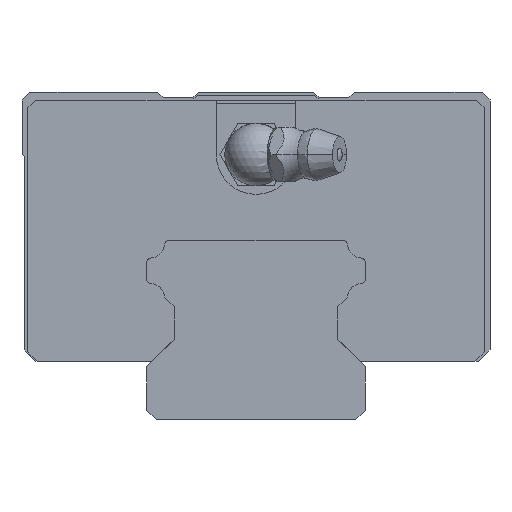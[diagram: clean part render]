
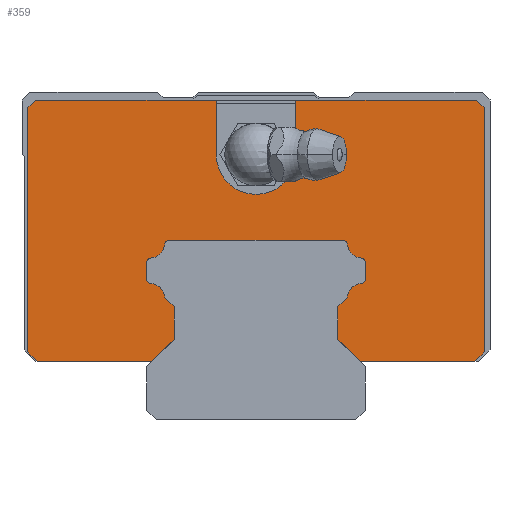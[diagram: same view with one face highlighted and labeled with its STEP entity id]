
A CAD part, front view. The second image highlights one B-rep face of the part: STEP entity #359.
In plain terms, the highlighted planar face has unit normal (0, -1, 0).
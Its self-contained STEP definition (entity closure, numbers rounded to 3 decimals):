
#359=ADVANCED_FACE('',(#803),#804,.F.);
#803=FACE_OUTER_BOUND('',#1365,.T.);
#804=PLANE('',#1366);
#1365=EDGE_LOOP('',(#2946,#2947,#2948,#2949,#2950,#2951,#2952,#2953,#2954,#2955,#2956,#2957,#2958,#2959,#2960,#2961,#2962,#2963,#2964,#2965,#2966,#2967,#2968,#2969,#2970,#2971,#2972,#2973,#2974,#2975,#2976,#2977,#2978));
#1366=AXIS2_PLACEMENT_3D('',#2979,#2980,#2981);
#2946=ORIENTED_EDGE('',*,*,#3915,.F.);
#2947=ORIENTED_EDGE('',*,*,#3850,.T.);
#2948=ORIENTED_EDGE('',*,*,#3777,.T.);
#2949=ORIENTED_EDGE('',*,*,#3774,.T.);
#2950=ORIENTED_EDGE('',*,*,#3916,.T.);
#2951=ORIENTED_EDGE('',*,*,#3811,.T.);
#2952=ORIENTED_EDGE('',*,*,#3703,.F.);
#2953=ORIENTED_EDGE('',*,*,#3693,.F.);
#2954=ORIENTED_EDGE('',*,*,#3692,.F.);
#2955=ORIENTED_EDGE('',*,*,#3797,.F.);
#2956=ORIENTED_EDGE('',*,*,#3810,.T.);
#2957=ORIENTED_EDGE('',*,*,#3819,.T.);
#2958=ORIENTED_EDGE('',*,*,#3917,.T.);
#2959=ORIENTED_EDGE('',*,*,#3709,.T.);
#2960=ORIENTED_EDGE('',*,*,#3833,.T.);
#2961=ORIENTED_EDGE('',*,*,#3782,.F.);
#2962=ORIENTED_EDGE('',*,*,#3799,.F.);
#2963=ORIENTED_EDGE('',*,*,#3846,.F.);
#2964=ORIENTED_EDGE('',*,*,#3880,.F.);
#2965=ORIENTED_EDGE('',*,*,#3918,.F.);
#2966=ORIENTED_EDGE('',*,*,#3919,.F.);
#2967=ORIENTED_EDGE('',*,*,#3864,.F.);
#2968=ORIENTED_EDGE('',*,*,#3920,.F.);
#2969=ORIENTED_EDGE('',*,*,#3921,.F.);
#2970=ORIENTED_EDGE('',*,*,#3721,.F.);
#2971=ORIENTED_EDGE('',*,*,#3831,.F.);
#2972=ORIENTED_EDGE('',*,*,#3858,.F.);
#2973=ORIENTED_EDGE('',*,*,#3922,.F.);
#2974=ORIENTED_EDGE('',*,*,#3894,.F.);
#2975=ORIENTED_EDGE('',*,*,#3923,.F.);
#2976=ORIENTED_EDGE('',*,*,#3824,.F.);
#2977=ORIENTED_EDGE('',*,*,#3848,.F.);
#2978=ORIENTED_EDGE('',*,*,#3728,.F.);
#2979=CARTESIAN_POINT('',(44.9,-13.8,24.35));
#2980=DIRECTION('',(0.0,1.0,0.0));
#2981=DIRECTION('',(1.0,0.0,0.0));
#3692=EDGE_CURVE('',#4536,#4532,#4538,.T.);
#3693=EDGE_CURVE('',#4532,#4539,#4540,.T.);
#3703=EDGE_CURVE('',#4539,#4552,#4557,.T.);
#3709=EDGE_CURVE('',#4569,#4566,#4570,.T.);
#3721=EDGE_CURVE('',#4591,#4593,#4594,.T.);
#3728=EDGE_CURVE('',#4603,#4605,#4606,.T.);
#3774=EDGE_CURVE('',#4681,#4678,#4682,.T.);
#3777=EDGE_CURVE('',#4686,#4681,#4687,.T.);
#3782=EDGE_CURVE('',#4693,#4695,#4696,.T.);
#3797=EDGE_CURVE('',#4717,#4536,#4719,.T.);
#3799=EDGE_CURVE('',#4721,#4693,#4723,.T.);
#3810=EDGE_CURVE('',#4717,#4736,#4739,.T.);
#3811=EDGE_CURVE('',#4740,#4552,#4741,.T.);
#3819=EDGE_CURVE('',#4736,#4750,#4753,.T.);
#3824=EDGE_CURVE('',#4758,#4760,#4761,.T.);
#3831=EDGE_CURVE('',#4772,#4591,#4774,.T.);
#3833=EDGE_CURVE('',#4566,#4695,#4776,.T.);
#3846=EDGE_CURVE('',#4797,#4721,#4799,.T.);
#3848=EDGE_CURVE('',#4605,#4758,#4801,.T.);
#3850=EDGE_CURVE('',#4803,#4686,#4804,.T.);
#3858=EDGE_CURVE('',#4817,#4772,#4819,.T.);
#3864=EDGE_CURVE('',#4828,#4830,#4831,.T.);
#3880=EDGE_CURVE('',#4853,#4797,#4855,.T.);
#3894=EDGE_CURVE('',#4877,#4879,#4880,.T.);
#3915=EDGE_CURVE('',#4803,#4603,#4907,.T.);
#3916=EDGE_CURVE('',#4678,#4740,#4908,.T.);
#3917=EDGE_CURVE('',#4750,#4569,#4909,.T.);
#3918=EDGE_CURVE('',#4910,#4853,#4911,.T.);
#3919=EDGE_CURVE('',#4830,#4910,#4912,.T.);
#3920=EDGE_CURVE('',#4913,#4828,#4914,.T.);
#3921=EDGE_CURVE('',#4593,#4913,#4915,.T.);
#3922=EDGE_CURVE('',#4879,#4817,#4916,.T.);
#3923=EDGE_CURVE('',#4760,#4877,#4917,.T.);
#4532=VERTEX_POINT('',#5870);
#4536=VERTEX_POINT('',#5875);
#4538=CIRCLE('',#5878,5.1);
#4539=VERTEX_POINT('',#5879);
#4540=CIRCLE('',#5880,5.1);
#4552=VERTEX_POINT('',#5897);
#4557=LINE('',#5905,#5906);
#4566=VERTEX_POINT('',#5919);
#4569=VERTEX_POINT('',#5923);
#4570=LINE('',#5924,#5925);
#4591=VERTEX_POINT('',#5956);
#4593=VERTEX_POINT('',#5959);
#4594=LINE('',#5960,#5961);
#4603=VERTEX_POINT('',#5972);
#4605=VERTEX_POINT('',#5975);
#4606=LINE('',#5976,#5977);
#4678=VERTEX_POINT('',#6085);
#4681=VERTEX_POINT('',#6089);
#4682=LINE('',#6090,#6091);
#4686=VERTEX_POINT('',#6097);
#4687=LINE('',#6098,#6099);
#4693=VERTEX_POINT('',#6107);
#4695=VERTEX_POINT('',#6110);
#4696=LINE('',#6111,#6112);
#4717=VERTEX_POINT('',#6142);
#4719=LINE('',#6145,#6146);
#4721=VERTEX_POINT('',#6148);
#4723=LINE('',#6151,#6152);
#4736=VERTEX_POINT('',#6169);
#4739=LINE('',#6173,#6174);
#4740=VERTEX_POINT('',#6175);
#4741=LINE('',#6176,#6177);
#4750=VERTEX_POINT('',#6190);
#4753=LINE('',#6194,#6195);
#4758=VERTEX_POINT('',#6201);
#4760=VERTEX_POINT('',#6204);
#4761=CIRCLE('',#6205,2.0);
#4772=VERTEX_POINT('',#6228);
#4774=CIRCLE('',#6231,0.5);
#4776=LINE('',#6233,#6234);
#4797=VERTEX_POINT('',#6264);
#4799=LINE('',#6267,#6268);
#4801=LINE('',#6271,#6272);
#4803=VERTEX_POINT('',#6275);
#4804=LINE('',#6276,#6277);
#4817=VERTEX_POINT('',#6296);
#4819=CIRCLE('',#6301,2.0);
#4828=VERTEX_POINT('',#6319);
#4830=VERTEX_POINT('',#6324);
#4831=CIRCLE('',#6325,0.5);
#4853=VERTEX_POINT('',#6364);
#4855=CIRCLE('',#6369,2.0);
#4877=VERTEX_POINT('',#6406);
#4879=VERTEX_POINT('',#6409);
#4880=LINE('',#6410,#6411);
#4907=LINE('',#6454,#6455);
#4908=LINE('',#6456,#6457);
#4909=LINE('',#6458,#6459);
#4910=VERTEX_POINT('',#6460);
#4911=CIRCLE('',#6461,0.5);
#4912=LINE('',#6462,#6463);
#4913=VERTEX_POINT('',#6464);
#4914=CIRCLE('',#6465,2.0);
#4915=CIRCLE('',#6466,0.5);
#4916=CIRCLE('',#6467,0.5);
#4917=CIRCLE('',#6468,0.5);
#5870=CARTESIAN_POINT('',(0.,-13.8,28.9));
#5875=CARTESIAN_POINT('',(-5.1,-13.8,34.0));
#5878=AXIS2_PLACEMENT_3D('',#7147,#7148,#7149);
#5879=CARTESIAN_POINT('',(5.1,-13.8,34.0));
#5880=AXIS2_PLACEMENT_3D('',#7150,#7151,#7152);
#5897=CARTESIAN_POINT('',(5.1,-13.8,41.0));
#5905=CARTESIAN_POINT('',(5.1,-13.8,34.0));
#5906=VECTOR('',#7164,1000.0);
#5919=CARTESIAN_POINT('',(-28.05,-13.8,7.5));
#5923=CARTESIAN_POINT('',(-29.25,-13.8,8.7));
#5924=CARTESIAN_POINT('',(-29.25,-13.8,8.7));
#5925=VECTOR('',#7170,1000.0);
#5956=CARTESIAN_POINT('',(11.201,-13.8,23.0));
#5959=CARTESIAN_POINT('',(-11.201,-13.8,23.0));
#5960=CARTESIAN_POINT('',(44.9,-13.8,23.0));
#5961=VECTOR('',#7182,1000.0);
#5972=CARTESIAN_POINT('',(10.5,-13.8,10.3));
#5975=CARTESIAN_POINT('',(10.5,-13.8,14.502));
#5976=CARTESIAN_POINT('',(10.5,-13.8,24.35));
#5977=VECTOR('',#7195,1000.0);
#6085=CARTESIAN_POINT('',(29.25,-13.8,40.0));
#6089=CARTESIAN_POINT('',(29.25,-13.8,8.7));
#6090=CARTESIAN_POINT('',(29.25,-13.8,8.7));
#6091=VECTOR('',#7257,1000.0);
#6097=CARTESIAN_POINT('',(28.05,-13.8,7.5));
#6098=CARTESIAN_POINT('',(28.05,-13.8,7.5));
#6099=VECTOR('',#7260,1000.0);
#6107=CARTESIAN_POINT('',(-10.5,-13.8,10.3));
#6110=CARTESIAN_POINT('',(-13.3,-13.8,7.5));
#6111=CARTESIAN_POINT('',(24.225,-13.8,45.025));
#6112=VECTOR('',#7267,1000.0);
#6142=CARTESIAN_POINT('',(-5.1,-13.8,41.0));
#6145=CARTESIAN_POINT('',(-5.1,-13.8,41.0));
#6146=VECTOR('',#7290,1000.0);
#6148=CARTESIAN_POINT('',(-10.5,-13.8,14.502));
#6151=CARTESIAN_POINT('',(-10.5,-13.8,24.35));
#6152=VECTOR('',#7292,1000.0);
#6169=CARTESIAN_POINT('',(-28.25,-13.8,41.0));
#6173=CARTESIAN_POINT('',(28.25,-13.8,41.0));
#6174=VECTOR('',#7313,1000.0);
#6175=CARTESIAN_POINT('',(28.25,-13.8,41.0));
#6176=CARTESIAN_POINT('',(28.25,-13.8,41.0));
#6177=VECTOR('',#7314,1000.0);
#6190=CARTESIAN_POINT('',(-29.25,-13.8,40.0));
#6194=CARTESIAN_POINT('',(-28.25,-13.8,41.0));
#6195=VECTOR('',#7326,1000.0);
#6201=CARTESIAN_POINT('',(11.701,-13.8,15.703));
#6204=CARTESIAN_POINT('',(13.536,-13.8,17.496));
#6205=AXIS2_PLACEMENT_3D('',#7335,#7336,#7337);
#6228=CARTESIAN_POINT('',(11.699,-13.8,22.544));
#6231=AXIS2_PLACEMENT_3D('',#7342,#7343,#7344);
#6233=CARTESIAN_POINT('',(-28.05,-13.8,7.5));
#6234=VECTOR('',#7348,1000.0);
#6264=CARTESIAN_POINT('',(-11.701,-13.8,15.703));
#6267=CARTESIAN_POINT('',(12.276,-13.8,-8.274));
#6268=VECTOR('',#7365,1000.0);
#6271=CARTESIAN_POINT('',(32.624,-13.8,36.626));
#6272=VECTOR('',#7367,1000.0);
#6275=CARTESIAN_POINT('',(13.3,-13.8,7.5));
#6276=CARTESIAN_POINT('',(-28.05,-13.8,7.5));
#6277=VECTOR('',#7369,1000.0);
#6296=CARTESIAN_POINT('',(13.536,-13.8,20.725));
#6301=AXIS2_PLACEMENT_3D('',#7376,#7377,#7378);
#6319=CARTESIAN_POINT('',(-13.536,-13.8,20.725));
#6324=CARTESIAN_POINT('',(-14.,-13.8,20.226));
#6325=AXIS2_PLACEMENT_3D('',#7382,#7383,#7384);
#6364=CARTESIAN_POINT('',(-13.536,-13.8,17.496));
#6369=AXIS2_PLACEMENT_3D('',#7402,#7403,#7404);
#6406=CARTESIAN_POINT('',(14.,-13.8,17.995));
#6409=CARTESIAN_POINT('',(14.,-13.8,20.226));
#6410=CARTESIAN_POINT('',(14.,-13.8,24.35));
#6411=VECTOR('',#7421,1000.0);
#6454=CARTESIAN_POINT('',(20.675,-13.8,0.125));
#6455=VECTOR('',#7450,1000.0);
#6456=CARTESIAN_POINT('',(29.25,-13.8,40.0));
#6457=VECTOR('',#7451,1000.0);
#6458=CARTESIAN_POINT('',(-29.25,-13.8,40.0));
#6459=VECTOR('',#7452,1000.0);
#6460=CARTESIAN_POINT('',(-14.,-13.8,17.995));
#6461=AXIS2_PLACEMENT_3D('',#7453,#7454,#7455);
#6462=CARTESIAN_POINT('',(-14.,-13.8,24.35));
#6463=VECTOR('',#7456,1000.0);
#6464=CARTESIAN_POINT('',(-11.699,-13.8,22.544));
#6465=AXIS2_PLACEMENT_3D('',#7457,#7458,#7459);
#6466=AXIS2_PLACEMENT_3D('',#7460,#7461,#7462);
#6467=AXIS2_PLACEMENT_3D('',#7463,#7464,#7465);
#6468=AXIS2_PLACEMENT_3D('',#7466,#7467,#7468);
#7147=CARTESIAN_POINT('',(0.0,-13.8,34.0));
#7148=DIRECTION('',(0.0,-1.0,0.0));
#7149=DIRECTION('',(-1.0,0.0,0.0));
#7150=CARTESIAN_POINT('',(0.0,-13.8,34.0));
#7151=DIRECTION('',(0.0,-1.0,0.0));
#7152=DIRECTION('',(-1.0,0.0,0.0));
#7164=DIRECTION('',(0.0,0.0,1.0));
#7170=DIRECTION('',(0.707,0.0,-0.707));
#7182=DIRECTION('',(-1.0,0.0,0.));
#7195=DIRECTION('',(0.0,0.0,1.0));
#7257=DIRECTION('',(0.0,0.0,1.0));
#7260=DIRECTION('',(0.707,0.0,0.707));
#7267=DIRECTION('',(-0.707,0.0,-0.707));
#7290=DIRECTION('',(0.0,0.0,-1.0));
#7292=DIRECTION('',(0.0,0.0,-1.0));
#7313=DIRECTION('',(-1.0,0.0,0.0));
#7314=DIRECTION('',(-1.0,0.0,0.0));
#7326=DIRECTION('',(-0.707,0.0,-0.707));
#7335=CARTESIAN_POINT('',(13.691,-13.8,15.502));
#7336=DIRECTION('',(0.0,1.0,0.0));
#7337=DIRECTION('',(0.0,0.0,1.0));
#7342=CARTESIAN_POINT('',(11.201,-13.8,22.5));
#7343=DIRECTION('',(0.0,-1.0,0.0));
#7344=DIRECTION('',(0.0,0.0,1.0));
#7348=DIRECTION('',(1.0,0.0,0.0));
#7365=DIRECTION('',(0.707,0.0,-0.707));
#7367=DIRECTION('',(0.707,0.0,0.707));
#7369=DIRECTION('',(1.0,0.0,0.0));
#7376=CARTESIAN_POINT('',(13.691,-13.8,22.719));
#7377=DIRECTION('',(0.0,1.0,0.0));
#7378=DIRECTION('',(0.0,0.0,1.0));
#7382=CARTESIAN_POINT('',(-13.5,-13.8,20.226));
#7383=DIRECTION('',(0.0,-1.0,0.0));
#7384=DIRECTION('',(0.0,0.0,1.0));
#7402=CARTESIAN_POINT('',(-13.691,-13.8,15.502));
#7403=DIRECTION('',(0.0,1.0,0.0));
#7404=DIRECTION('',(0.0,0.0,1.0));
#7421=DIRECTION('',(0.0,0.0,1.0));
#7450=DIRECTION('',(-0.707,0.0,0.707));
#7451=DIRECTION('',(-0.707,0.0,0.707));
#7452=DIRECTION('',(0.0,0.0,-1.0));
#7453=CARTESIAN_POINT('',(-13.5,-13.8,17.995));
#7454=DIRECTION('',(0.0,-1.0,0.0));
#7455=DIRECTION('',(0.0,0.0,1.0));
#7456=DIRECTION('',(0.0,0.0,-1.0));
#7457=CARTESIAN_POINT('',(-13.691,-13.8,22.719));
#7458=DIRECTION('',(0.0,1.0,0.0));
#7459=DIRECTION('',(0.0,0.0,1.0));
#7460=CARTESIAN_POINT('',(-11.201,-13.8,22.5));
#7461=DIRECTION('',(0.0,-1.0,0.0));
#7462=DIRECTION('',(0.0,0.0,1.0));
#7463=CARTESIAN_POINT('',(13.5,-13.8,20.226));
#7464=DIRECTION('',(0.0,-1.0,0.0));
#7465=DIRECTION('',(0.0,0.0,1.0));
#7466=CARTESIAN_POINT('',(13.5,-13.8,17.995));
#7467=DIRECTION('',(0.0,-1.0,0.0));
#7468=DIRECTION('',(0.0,0.0,1.0));
